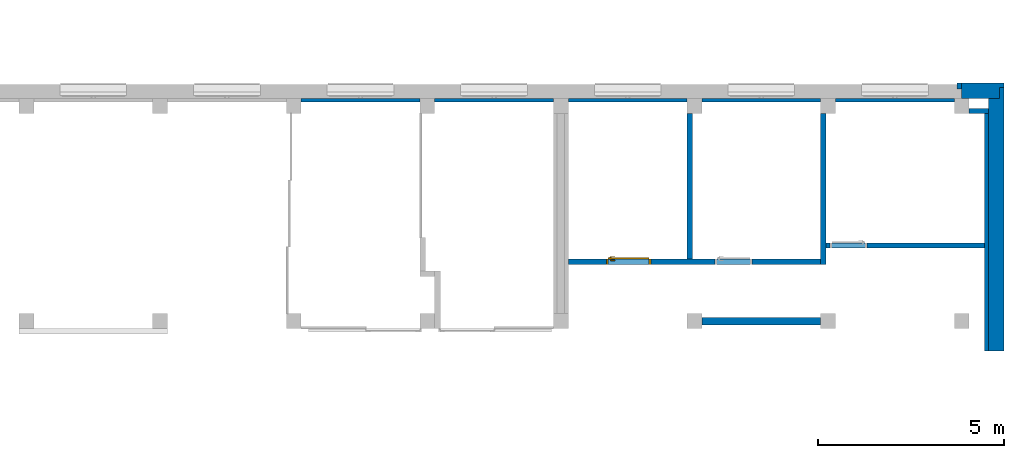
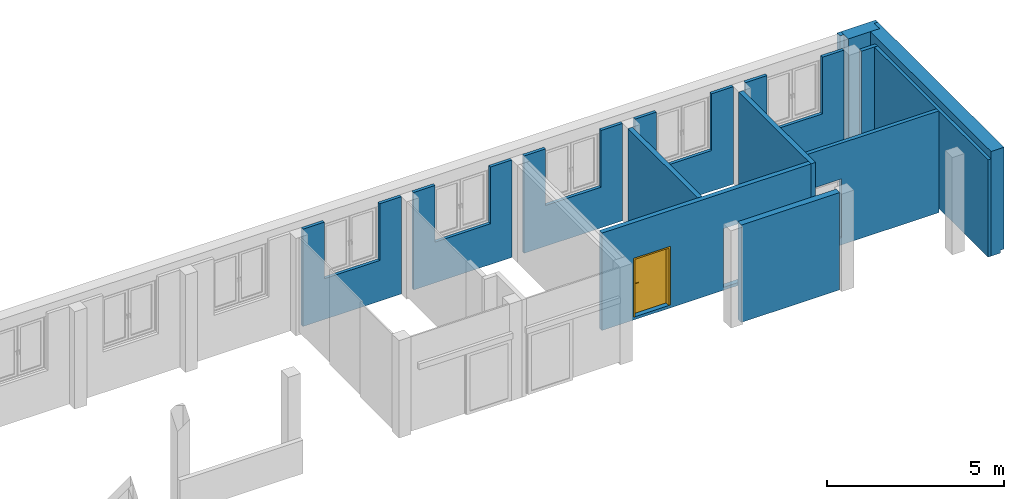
# One storey, part 25 of 37: 15 walls, 1 door, 8 openings.
"""IFC4 building model written with IfcOpenShell, lengths in metres."""

from ifc_helpers import new_model, entity, si_unit, converted_unit, derived_unit, frame, frame_2d, origin, origin_with_axes, place, context, subcontext, project, spatial, polyline, rectangle, outline, extrude, clip, bounded_halfspace, closed_shell, open_shell, surface_model, source, transform, mapped, material, layer, layer_set, layer_usage, type_object, element, fill, save


model = new_model("IFC4")

# Units and contexts
model_context = context("Model", 3, precision=1e-05, world=origin())
body_context = subcontext(model_context, "Body", "Model", "MODEL_VIEW")
ifc_project = project(units=[si_unit("LENGTHUNIT", "METRE"), si_unit("AREAUNIT", "SQUARE_METRE"), si_unit("VOLUMEUNIT", "CUBIC_METRE"), si_unit("MASSUNIT", "GRAM", prefix="KILO"), converted_unit("PLANEANGLEUNIT", "DEGREE", entity("IfcPlaneAngleMeasure", 0.0174532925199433), si_unit("PLANEANGLEUNIT", "RADIAN"), dimensions=[0, 0, 0, 0, 0, 0, 0]), derived_unit("THERMALTRANSMITTANCEUNIT", [(si_unit("POWERUNIT", "WATT"), 1), (si_unit("THERMODYNAMICTEMPERATUREUNIT", "KELVIN"), -1), (si_unit("LENGTHUNIT", "METRE"), -2)]), derived_unit("VOLUMETRICFLOWRATEUNIT", [(si_unit("LENGTHUNIT", "METRE"), 3), (converted_unit("TIMEUNIT", "hour", entity("IfcTimeMeasure", 3600.0), si_unit("TIMEUNIT", "SECOND"), dimensions=[0, 0, 1, 0, 0, 0, 0]), -1), (si_unit("LENGTHUNIT", "METRE"), -1)])], contexts=[model_context])

# Site, building, storey
site_placement = place(None, origin())
site = spatial("IfcSite", under=ifc_project, at=site_placement, Name="3. ASŘ", CompositionType="ELEMENT")
building_placement = place(site_placement, origin())
building = spatial("IfcBuilding", under=site, at=building_placement, Name="Pavilon B", CompositionType="ELEMENT")
storey_placement = place(building_placement, origin())
storey = spatial("IfcBuildingStorey", under=building, at=storey_placement, Name="Půdorys 1.NP", CompositionType="ELEMENT", Elevation=0.0)

# Walls
ifc_material_1 = material(Name="ZELEZOBETONOVÁ KCE")
ifc_layer_1 = layer(ifc_material_1, 0.2)
ifc_layer_set_1 = layer_set([ifc_layer_1])
ifc_layer_usage_1 = layer_usage(ifc_layer_set_1, "AXIS2", "POSITIVE", -0.1)
wall_1_placement = place(storey_placement, frame((78.1, -21.7, -0.1)))
element("IfcWall", 1, at=wall_1_placement, inside=storey, material=ifc_layer_usage_1, Name="ZELEZOBETONOVÁ KCE", context=body_context, shape_type="SweptSolid", body=[
    extrude(rectangle(XDim=3.2, YDim=0.2, at=frame_2d((1.6, 0.1), x_axis=(1.0, 0.0))), origin_with_axes(), (0.0, 0.0, 1.0), 3.35),
])
ifc_material_2 = material(Name="ZDIVO Z CDm")
ifc_layer_2 = layer(ifc_material_2, 0.125)
ifc_layer_set_2 = layer_set([ifc_layer_2])
ifc_layer_usage_2 = layer_usage(ifc_layer_set_2, "AXIS2", "POSITIVE", 0.0)
wall_2_placement = place(storey_placement, frame((85.3, -16.0, -0.1)))
element("IfcWall", 2, at=wall_2_placement, inside=storey, material=ifc_layer_usage_2, Name="ZDIVO Z CDm", context=body_context, shape_type="SweptSolid", body=[
    extrude(rectangle(XDim=0.52, YDim=0.125, at=frame_2d((0.26, 0.0625), x_axis=(1.0, 0.0))), origin_with_axes(), (0.0, 0.0, 1.0), 3.35),
])
ifc_material_3 = material(Name="ZELEZOBETONOVÁ KCE")
ifc_layer_3 = layer(ifc_material_3, 0.3)
ifc_material_4 = material(Name="MINERÁLNÍ VATA")
ifc_layer_4 = layer(ifc_material_4, 0.12)
ifc_layer_set_3 = layer_set([ifc_layer_3, ifc_layer_4])
ifc_layer_usage_3 = layer_usage(ifc_layer_set_3, "AXIS2", "POSITIVE", 0.0)
wall_3_placement = place(storey_placement, frame((85.1, -15.6, -0.1)))
element("IfcWall", 3, at=wall_3_placement, inside=storey, material=ifc_layer_usage_3, Name="ZELEZOBETONOVÁ KCE", context=body_context, shape_type="Clipping", body=[
    clip(extrude(outline(polyline([(0.0, 0.0), (1.02, 0.0), (1.02, 0.3), (1.14, 0.3), (1.14, 0.42), (0.0, 0.42), (0.0, 0.0)])), origin_with_axes(), (0.0, 0.0, 1.0), 3.6), bounded_halfspace(frame((0.66, 0.348, 0.1), z_axis=(0.0, 0.0, 1.0), x_axis=(0.0, -1.0, 0.0)), True, origin_with_axes(), polyline([(0.0, 0.42), (0.0, 0.299999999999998), (1.02, 0.299999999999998), (1.14, 0.3), (1.14, 0.42), (0.0, 0.42)]))),
])
ifc_material_5 = material(Name="MINERÁLNÍ VATA")
ifc_layer_5 = layer(ifc_material_5, 0.12)
ifc_layer_set_4 = layer_set([ifc_layer_5])
ifc_layer_usage_4 = layer_usage(ifc_layer_set_4, "AXIS2", "POSITIVE", 0.0)
wall_4_placement = place(storey_placement, frame((85.1, -15.35, 0.0), z_axis=(0.0, 0.0, 1.0), x_axis=(0.0, 1.0, 0.0)))
element("IfcWall", 4, at=wall_4_placement, inside=storey, material=ifc_layer_usage_4, Name="ZELEZOBETONOVÁ KCE", context=body_context, shape_type="SweptSolid", body=[
    extrude(rectangle(XDim=0.17, YDim=0.12, at=frame_2d((0.085, 0.06), x_axis=(1.0, 0.0))), origin_with_axes(), (0.0, 0.0, 1.0), 3.5),
])

# Wall, opening
ifc_material_6 = material(Name="PÓROBETONOVÉ ZDIVO")
ifc_layer_6 = layer(ifc_material_6, 0.1)
ifc_layer_set_5 = layer_set([ifc_layer_6])
ifc_layer_usage_5 = layer_usage(ifc_layer_set_5, "AXIS2", "POSITIVE", 0.0)
wall_5_placement = place(storey_placement, frame((84.9, -15.6, -0.1), z_axis=(0.0, 0.0, 1.0), x_axis=(-1.0, 0.0, 0.0)))
wall_5 = element("IfcWall", 5, at=wall_5_placement, inside=storey, material=ifc_layer_usage_5, Name="PÓROBETONOVÉ ZDIVO", context=body_context, shape_type="SweptSolid", body=[
    extrude(rectangle(XDim=3.2, YDim=0.1, at=frame_2d((1.6, 0.05), x_axis=(1.0, 0.0))), origin_with_axes(), (0.0, 0.0, 1.0), 3.35),
])
opening_1_placement = place(wall_5_placement, frame((2.5, 0.1, 1.4), z_axis=(0.0, -1.0, 0.0), x_axis=(0.0, 0.0, 1.0)))
element("IfcOpeningElement", 6, at=opening_1_placement, cuts=wall_5, Name="Okenní otvor", ObjectType="Opening", context=body_context, shape_type="SweptSolid", body=[
    extrude(outline(polyline([(0.0, 1.8), (1.95, 1.8), (1.95, 0.0), (0.0, 0.0), (0.0, 1.8)])), origin_with_axes(), (0.0, 0.0, 1.0), 0.1),
])

ifc_material_7 = material(Name="PÓROBETONOVÉ ZDIVO")
ifc_layer_7 = layer(ifc_material_7, 0.1)
ifc_layer_set_6 = layer_set([ifc_layer_7])
ifc_layer_usage_6 = layer_usage(ifc_layer_set_6, "AXIS2", "POSITIVE", 0.0)
wall_6_placement = place(storey_placement, frame((70.5, -15.6, -0.1), z_axis=(0.0, 0.0, 1.0), x_axis=(-1.0, 0.0, 0.0)))
wall_6 = element("IfcWall", 7, at=wall_6_placement, inside=storey, material=ifc_layer_usage_6, Name="PÓROBETONOVÉ ZDIVO", context=body_context, shape_type="SweptSolid", body=[
    extrude(rectangle(XDim=3.2, YDim=0.1, at=frame_2d((1.6, 0.05), x_axis=(1.0, 0.0))), origin_with_axes(), (0.0, 0.0, 1.0), 3.35),
])
opening_2_placement = place(wall_6_placement, frame((2.5, 0.1, 1.4), z_axis=(0.0, -1.0, 0.0), x_axis=(0.0, 0.0, 1.0)))
element("IfcOpeningElement", 8, at=opening_2_placement, cuts=wall_6, Name="Okenní otvor", ObjectType="Opening", context=body_context, shape_type="SweptSolid", body=[
    extrude(outline(polyline([(0.0, 1.8), (1.95, 1.8), (1.95, 0.0), (0.0, 0.0), (0.0, 1.8)])), origin_with_axes(), (0.0, 0.0, 1.0), 0.1),
])

ifc_material_8 = material(Name="PÓROBETONOVÉ ZDIVO")
ifc_layer_8 = layer(ifc_material_8, 0.1)
ifc_layer_set_7 = layer_set([ifc_layer_8])
ifc_layer_usage_7 = layer_usage(ifc_layer_set_7, "AXIS2", "POSITIVE", 0.0)
wall_7_placement = place(storey_placement, frame((77.7, -15.6, -0.1), z_axis=(0.0, 0.0, 1.0), x_axis=(-1.0, 0.0, 0.0)))
wall_7 = element("IfcWall", 9, at=wall_7_placement, inside=storey, material=ifc_layer_usage_7, Name="PÓROBETONOVÉ ZDIVO", context=body_context, shape_type="SweptSolid", body=[
    extrude(rectangle(XDim=3.2, YDim=0.1, at=frame_2d((1.6, 0.05), x_axis=(1.0, 0.0))), origin_with_axes(), (0.0, 0.0, 1.0), 3.35),
])
opening_3_placement = place(wall_7_placement, frame((2.5, 0.1, 1.4), z_axis=(0.0, -1.0, 0.0), x_axis=(0.0, 0.0, 1.0)))
element("IfcOpeningElement", 10, at=opening_3_placement, cuts=wall_7, Name="Okenní otvor", ObjectType="Opening", context=body_context, shape_type="SweptSolid", body=[
    extrude(outline(polyline([(0.0, 1.8), (1.95, 1.8), (1.95, 0.0), (0.0, 0.0), (0.0, 1.8)])), origin_with_axes(), (0.0, 0.0, 1.0), 0.1),
])

ifc_material_9 = material(Name="PÓROBETONOVÉ ZDIVO")
ifc_layer_9 = layer(ifc_material_9, 0.1)
ifc_layer_set_8 = layer_set([ifc_layer_9])
ifc_layer_usage_8 = layer_usage(ifc_layer_set_8, "AXIS2", "POSITIVE", 0.0)
wall_8_placement = place(storey_placement, frame((81.3, -15.6, -0.1), z_axis=(0.0, 0.0, 1.0), x_axis=(-1.0, 0.0, 0.0)))
wall_8 = element("IfcWall", 11, at=wall_8_placement, inside=storey, material=ifc_layer_usage_8, Name="PÓROBETONOVÉ ZDIVO", context=body_context, shape_type="SweptSolid", body=[
    extrude(rectangle(XDim=3.2, YDim=0.1, at=frame_2d((1.6, 0.05), x_axis=(1.0, 0.0))), origin_with_axes(), (0.0, 0.0, 1.0), 3.35),
])
opening_4_placement = place(wall_8_placement, frame((2.5, 0.1, 1.4), z_axis=(0.0, -1.0, 0.0), x_axis=(0.0, 0.0, 1.0)))
element("IfcOpeningElement", 12, at=opening_4_placement, cuts=wall_8, Name="Okenní otvor", ObjectType="Opening", context=body_context, shape_type="SweptSolid", body=[
    extrude(outline(polyline([(0.0, 1.8), (1.95, 1.8), (1.95, 0.0), (0.0, 0.0), (0.0, 1.8)])), origin_with_axes(), (0.0, 0.0, 1.0), 0.1),
])

ifc_material_10 = material(Name="PÓROBETONOVÉ ZDIVO")
ifc_layer_10 = layer(ifc_material_10, 0.1)
ifc_layer_set_9 = layer_set([ifc_layer_10])
ifc_layer_usage_9 = layer_usage(ifc_layer_set_9, "AXIS2", "POSITIVE", 0.0)
wall_9_placement = place(storey_placement, frame((74.1, -15.6, -0.1), z_axis=(0.0, 0.0, 1.0), x_axis=(-1.0, 0.0, 0.0)))
wall_9 = element("IfcWall", 13, at=wall_9_placement, inside=storey, material=ifc_layer_usage_9, Name="PÓROBETONOVÉ ZDIVO", context=body_context, shape_type="SweptSolid", body=[
    extrude(rectangle(XDim=3.2, YDim=0.1, at=frame_2d((1.6, 0.05), x_axis=(1.0, 0.0))), origin_with_axes(), (0.0, 0.0, 1.0), 3.35),
])
opening_5_placement = place(wall_9_placement, frame((2.5, 0.1, 1.4), z_axis=(0.0, -1.0, 0.0), x_axis=(0.0, 0.0, 1.0)))
element("IfcOpeningElement", 14, at=opening_5_placement, cuts=wall_9, Name="Okenní otvor", ObjectType="Opening", context=body_context, shape_type="SweptSolid", body=[
    extrude(outline(polyline([(0.0, 1.8), (1.95, 1.8), (1.95, 0.0), (0.0, 0.0), (0.0, 1.8)])), origin_with_axes(), (0.0, 0.0, 1.0), 0.1),
])

# Wall, openings, door
ifc_material_11 = material(Name="YTONG 150")
ifc_layer_11 = layer(ifc_material_11, 0.15)
ifc_layer_set_10 = layer_set([ifc_layer_11])
ifc_layer_usage_10 = layer_usage(ifc_layer_set_10, "AXIS2", "POSITIVE", 0.0)
wall_10_placement = place(storey_placement, frame((81.3, -19.93, -0.1), z_axis=(0.0, 0.0, 1.0), x_axis=(-1.0, 0.0, 0.0)))
wall_10 = element("IfcWall", 15, at=wall_10_placement, inside=storey, material=ifc_layer_usage_10, Name="YTONG 150", context=body_context, shape_type="SweptSolid", body=[
    extrude(rectangle(XDim=6.8, YDim=0.15, at=frame_2d((3.4, 0.075), x_axis=(1.0, 0.0))), origin_with_axes(), (0.0, 0.0, 1.0), 3.35),
])
opening_6_placement = place(wall_10_placement, frame((4.575, 0.0, 0.1), z_axis=(0.0, 1.0, 0.0), x_axis=(0.0, 0.0, 1.0)))
opening_6 = element("IfcOpeningElement", 16, at=opening_6_placement, cuts=wall_10, Name="Dveřní otvor", ObjectType="Opening", context=body_context, shape_type="SweptSolid", body=[
    extrude(outline(polyline([(0.0, 1.2), (2.02, 1.2), (2.02, 0.0), (0.0, 0.0), (0.0, 1.2)])), origin_with_axes(), (0.0, 0.0, 1.0), 0.15),
])
opening_7_placement = place(wall_10_placement, frame((1.85, 0.0, 0.1), z_axis=(0.0, 1.0, 0.0), x_axis=(0.0, 0.0, 1.0)))
element("IfcOpeningElement", 17, at=opening_7_placement, cuts=wall_10, Name="Dveřní otvor", ObjectType="Opening", context=body_context, shape_type="SweptSolid", body=[
    extrude(outline(polyline([(0.0, 1.0), (2.02, 1.0), (2.02, 0.0), (0.0, 0.0), (0.0, 1.0)])), origin_with_axes(), (0.0, 0.0, 1.0), 0.15),
])
door_type = type_object("IfcDoorType", Name="D101", OperationType="NOTDEFINED", ParameterTakesPrecedence=False, PredefinedType="DOOR")
shared_shape = source(origin_with_axes(), body_context, "Body", "SurfaceModel", [
    surface_model("IfcShellBasedSurfaceModel", [(0.0, 0.15, 2.02), (0.0, 0.15, -9.18485099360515e-18), (0.05, 0.15, -9.18485099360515e-18), (0.05, 0.15, 2.02), (0.0, 0.0, 9.18485099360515e-18), (0.0, 2.55795384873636e-16, 2.02), (0.05, 2.55795384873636e-16, 2.02), (0.05, 0.0, 9.18485099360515e-18)], [closed_shell([[[0, 1, 2, 3]], [[4, 5, 6, 7]], [[1, 0, 5, 4]], [[2, 1, 4, 7]], [[3, 2, 7, 6]], [[0, 3, 6, 5]]], orient=[[False], [False], [False], [False], [False], [False]])]),
    surface_model("IfcShellBasedSurfaceModel", [(1.15, 0.15, 2.02), (1.15, 0.15, -9.18485099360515e-18), (1.2, 0.15, -9.18485099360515e-18), (1.2, 0.15, 2.02), (1.15, 0.0, 9.18485099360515e-18), (1.15, 2.55795384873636e-16, 2.02), (1.2, 2.55795384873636e-16, 2.02), (1.2, 0.0, 9.18485099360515e-18)], [closed_shell([[[0, 1, 2, 3]], [[4, 5, 6, 7]], [[1, 0, 5, 4]], [[2, 1, 4, 7]], [[3, 2, 7, 6]], [[0, 3, 6, 5]]], orient=[[False], [False], [False], [False], [False], [False]])]),
    surface_model("IfcShellBasedSurfaceModel", [(0.05, 0.15, 2.02), (0.05, 0.15, 1.97), (1.15, 0.15, 1.97), (1.15, 0.15, 2.02), (0.05, 2.27373675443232e-16, 1.97), (0.05, 2.27373675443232e-16, 2.02), (1.15, 2.27373675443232e-16, 2.02), (1.15, 2.27373675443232e-16, 1.97)], [closed_shell([[[0, 1, 2, 3]], [[4, 5, 6, 7]], [[1, 0, 5, 4]], [[2, 1, 4, 7]], [[3, 2, 7, 6]], [[0, 3, 6, 5]]], orient=[[False], [False], [False], [False], [False], [False]])]),
    surface_model("IfcShellBasedSurfaceModel", [(0.05, 0.19, 1.97), (0.05, 0.19, -1.40834381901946e-17), (1.15, 0.19, -1.40834381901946e-17), (1.15, 0.19, 1.97), (0.05, 0.15, -9.18485099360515e-18), (0.05, 0.15, 1.97), (1.15, 0.15, 1.97), (1.15, 0.15, -9.18485099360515e-18)], [closed_shell([[[0, 1, 2, 3]], [[4, 5, 6, 7]], [[1, 0, 5, 4]], [[2, 1, 4, 7]], [[3, 2, 7, 6]], [[0, 3, 6, 5]]], orient=[[False], [False], [False], [False], [False], [False]])]),
    surface_model("IfcShellBasedSurfaceModel", [(1.10881569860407, 0.15, 0.93625), (1.1125, 0.15, 0.95), (1.10881569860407, 0.15, 0.96375), (1.09875, 0.15, 0.973815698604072), (1.085, 0.15, 0.9775), (1.07125, 0.15, 0.973815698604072), (1.06118430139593, 0.15, 0.96375), (1.0575, 0.15, 0.95), (1.06118430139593, 0.15, 0.93625), (1.07125, 0.15, 0.926184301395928), (1.085, 0.15, 0.9225), (1.09875, 0.15, 0.926184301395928), (1.1125, 0.1375, 0.95), (1.10881569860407, 0.1375, 0.93625), (1.09875, 0.1375, 0.926184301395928), (1.085, 0.1375, 0.9225), (1.07125, 0.1375, 0.926184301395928), (1.06118430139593, 0.1375, 0.93625), (1.0575, 0.1375, 0.95), (1.06118430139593, 0.1375, 0.96375), (1.07125, 0.1375, 0.973815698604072), (1.085, 0.1375, 0.9775), (1.09875, 0.1375, 0.973815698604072), (1.10881569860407, 0.1375, 0.96375)], [closed_shell([[[0, 1, 2, 3, 4, 5, 6, 7, 8, 9, 10, 11]], [[12, 13, 14, 15, 16, 17, 18, 19, 20, 21, 22, 23]], [[1, 0, 13, 12]], [[2, 1, 12, 23]], [[3, 2, 23, 22]], [[4, 3, 22, 21]], [[5, 4, 21, 20]], [[6, 5, 20, 19]], [[7, 6, 19, 18]], [[8, 7, 18, 17]], [[9, 8, 17, 16]], [[10, 9, 16, 15]], [[11, 10, 15, 14]], [[0, 11, 14, 13]]], orient=[[False], [False], [False], [False], [False], [False], [False], [False], [False], [False], [False], [False], [False], [False]])]),
    surface_model("IfcShellBasedSurfaceModel", [(1.10881569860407, 0.15, 1.03625), (1.1125, 0.15, 1.05), (1.10881569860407, 0.15, 1.06375), (1.09875, 0.15, 1.07381569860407), (1.085, 0.15, 1.0775), (1.07125, 0.15, 1.07381569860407), (1.06118430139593, 0.15, 1.06375), (1.0575, 0.15, 1.05), (1.06118430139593, 0.15, 1.03625), (1.07125, 0.15, 1.02618430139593), (1.085, 0.15, 1.0225), (1.09875, 0.15, 1.02618430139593), (1.1125, 0.1375, 1.05), (1.10881569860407, 0.1375, 1.03625), (1.09875, 0.1375, 1.02618430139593), (1.085, 0.1375, 1.0225), (1.07125, 0.1375, 1.02618430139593), (1.06118430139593, 0.1375, 1.03625), (1.0575, 0.1375, 1.05), (1.06118430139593, 0.1375, 1.06375), (1.07125, 0.1375, 1.07381569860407), (1.085, 0.1375, 1.0775), (1.09875, 0.1375, 1.07381569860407), (1.10881569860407, 0.1375, 1.06375)], [closed_shell([[[0, 1, 2, 3, 4, 5, 6, 7, 8, 9, 10, 11]], [[12, 13, 14, 15, 16, 17, 18, 19, 20, 21, 22, 23]], [[1, 0, 13, 12]], [[2, 1, 12, 23]], [[3, 2, 23, 22]], [[4, 3, 22, 21]], [[5, 4, 21, 20]], [[6, 5, 20, 19]], [[7, 6, 19, 18]], [[8, 7, 18, 17]], [[9, 8, 17, 16]], [[10, 9, 16, 15]], [[11, 10, 15, 14]], [[0, 11, 14, 13]]], orient=[[False], [False], [False], [False], [False], [False], [False], [False], [False], [False], [False], [False], [False], [False]])]),
    surface_model("IfcShellBasedSurfaceModel", [(1.085, 0.15, 1.06), (1.08, 0.15, 1.05866025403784), (1.07633974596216, 0.15, 1.055), (1.075, 0.15, 1.05), (1.07633974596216, 0.15, 1.045), (1.08, 0.15, 1.04133974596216), (1.085, 0.15, 1.04), (1.09, 0.15, 1.04133974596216), (1.09366025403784, 0.15, 1.045), (1.095, 0.15, 1.05), (1.09366025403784, 0.15, 1.055), (1.09, 0.15, 1.05866025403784), (1.09, 0.105, 1.05866025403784), (1.085, 0.11, 1.06), (1.09366025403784, 0.101339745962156, 1.055), (1.095, 0.1, 1.05), (1.09366025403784, 0.101339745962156, 1.045), (1.09, 0.105, 1.04133974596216), (1.085, 0.11, 1.04), (1.08, 0.115, 1.04133974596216), (1.07633974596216, 0.118660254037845, 1.045), (1.075, 0.12, 1.05), (1.07633974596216, 0.118660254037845, 1.055), (1.08, 0.115, 1.05866025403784), (0.97, 0.105, 1.05866025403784), (0.97, 0.11, 1.06), (0.97, 0.101339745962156, 1.055), (0.97, 0.1, 1.05), (0.97, 0.101339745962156, 1.045), (0.97, 0.105, 1.04133974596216), (0.97, 0.11, 1.04), (0.97, 0.115, 1.04133974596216), (0.97, 0.118660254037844, 1.045), (0.97, 0.12, 1.05), (0.97, 0.118660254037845, 1.055), (0.97, 0.115, 1.05866025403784)], [open_shell([[[0, 1, 2, 3, 4, 5, 6, 7, 8, 9, 10, 11]], [[0, 11, 12, 13]], [[11, 10, 14, 12]], [[10, 9, 15, 14]], [[9, 8, 16, 15]], [[8, 7, 17, 16]], [[7, 6, 18, 17]], [[6, 5, 19, 18]], [[5, 4, 20, 19]], [[4, 3, 21, 20]], [[3, 2, 22, 21]], [[2, 1, 23, 22]], [[1, 0, 13, 23]], [[13, 12, 24, 25]], [[12, 14, 26, 24]], [[14, 15, 27, 26]], [[15, 16, 28, 27]], [[16, 17, 29, 28]], [[17, 18, 30, 29]], [[18, 19, 31, 30]], [[19, 20, 32, 31]], [[20, 21, 33, 32]], [[21, 22, 34, 33]], [[22, 23, 35, 34]], [[23, 13, 25, 35]]], orient=[[False], [False], [False], [False], [False], [False], [False], [False], [False], [False], [False], [False], [False], [False], [False], [False], [False], [False], [False], [False], [False], [False], [False], [False], [False]])]),
    surface_model("IfcShellBasedSurfaceModel", [(1.10881569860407, 0.19, 0.93625), (1.09875, 0.19, 0.926184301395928), (1.085, 0.19, 0.9225), (1.07125, 0.19, 0.926184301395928), (1.06118430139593, 0.19, 0.93625), (1.0575, 0.19, 0.95), (1.06118430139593, 0.19, 0.96375), (1.07125, 0.19, 0.973815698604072), (1.085, 0.19, 0.9775), (1.09875, 0.19, 0.973815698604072), (1.10881569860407, 0.19, 0.96375), (1.1125, 0.19, 0.95), (1.1125, 0.2025, 0.95), (1.10881569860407, 0.2025, 0.96375), (1.09875, 0.2025, 0.973815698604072), (1.085, 0.2025, 0.9775), (1.07125, 0.2025, 0.973815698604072), (1.06118430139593, 0.2025, 0.96375), (1.0575, 0.2025, 0.95), (1.06118430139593, 0.2025, 0.93625), (1.07125, 0.2025, 0.926184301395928), (1.085, 0.2025, 0.9225), (1.09875, 0.2025, 0.926184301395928), (1.10881569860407, 0.2025, 0.93625)], [closed_shell([[[0, 1, 2, 3, 4, 5, 6, 7, 8, 9, 10, 11]], [[12, 13, 14, 15, 16, 17, 18, 19, 20, 21, 22, 23]], [[11, 12, 23, 0]], [[10, 13, 12, 11]], [[9, 14, 13, 10]], [[8, 15, 14, 9]], [[7, 16, 15, 8]], [[6, 17, 16, 7]], [[5, 18, 17, 6]], [[4, 19, 18, 5]], [[3, 20, 19, 4]], [[2, 21, 20, 3]], [[1, 22, 21, 2]], [[0, 23, 22, 1]]], orient=[[False], [False], [False], [False], [False], [False], [False], [False], [False], [False], [False], [False], [False], [False]])]),
    surface_model("IfcShellBasedSurfaceModel", [(1.10881569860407, 0.19, 1.03625), (1.09875, 0.19, 1.02618430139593), (1.085, 0.19, 1.0225), (1.07125, 0.19, 1.02618430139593), (1.06118430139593, 0.19, 1.03625), (1.0575, 0.19, 1.05), (1.06118430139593, 0.19, 1.06375), (1.07125, 0.19, 1.07381569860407), (1.085, 0.19, 1.0775), (1.09875, 0.19, 1.07381569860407), (1.10881569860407, 0.19, 1.06375), (1.1125, 0.19, 1.05), (1.1125, 0.2025, 1.05), (1.10881569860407, 0.2025, 1.06375), (1.09875, 0.2025, 1.07381569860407), (1.085, 0.2025, 1.0775), (1.07125, 0.2025, 1.07381569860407), (1.06118430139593, 0.2025, 1.06375), (1.0575, 0.2025, 1.05), (1.06118430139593, 0.2025, 1.03625), (1.07125, 0.2025, 1.02618430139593), (1.085, 0.2025, 1.0225), (1.09875, 0.2025, 1.02618430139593), (1.10881569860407, 0.2025, 1.03625)], [closed_shell([[[0, 1, 2, 3, 4, 5, 6, 7, 8, 9, 10, 11]], [[12, 13, 14, 15, 16, 17, 18, 19, 20, 21, 22, 23]], [[11, 12, 23, 0]], [[10, 13, 12, 11]], [[9, 14, 13, 10]], [[8, 15, 14, 9]], [[7, 16, 15, 8]], [[6, 17, 16, 7]], [[5, 18, 17, 6]], [[4, 19, 18, 5]], [[3, 20, 19, 4]], [[2, 21, 20, 3]], [[1, 22, 21, 2]], [[0, 23, 22, 1]]], orient=[[False], [False], [False], [False], [False], [False], [False], [False], [False], [False], [False], [False], [False], [False]])]),
    surface_model("IfcShellBasedSurfaceModel", [(1.085, 0.19, 1.06), (1.09, 0.19, 1.05866025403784), (1.09366025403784, 0.19, 1.055), (1.095, 0.19, 1.05), (1.09366025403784, 0.19, 1.045), (1.09, 0.19, 1.04133974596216), (1.085, 0.19, 1.04), (1.08, 0.19, 1.04133974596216), (1.07633974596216, 0.19, 1.045), (1.075, 0.19, 1.05), (1.07633974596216, 0.19, 1.055), (1.08, 0.19, 1.05866025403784), (1.085, 0.23, 1.06), (1.09, 0.235, 1.05866025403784), (1.09366025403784, 0.238660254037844, 1.055), (1.095, 0.24, 1.05), (1.09366025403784, 0.238660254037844, 1.045), (1.09, 0.235, 1.04133974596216), (1.085, 0.23, 1.04), (1.08, 0.225, 1.04133974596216), (1.07633974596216, 0.221339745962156, 1.045), (1.075, 0.22, 1.05), (1.07633974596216, 0.221339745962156, 1.055), (1.08, 0.225, 1.05866025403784), (0.97, 0.23, 1.06), (0.97, 0.235, 1.05866025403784), (0.97, 0.238660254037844, 1.055), (0.97, 0.24, 1.05), (0.97, 0.238660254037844, 1.045), (0.97, 0.235, 1.04133974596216), (0.97, 0.23, 1.04), (0.97, 0.225, 1.04133974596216), (0.97, 0.221339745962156, 1.045), (0.97, 0.22, 1.05), (0.97, 0.221339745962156, 1.055), (0.97, 0.225, 1.05866025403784)], [open_shell([[[0, 1, 2, 3, 4, 5, 6, 7, 8, 9, 10, 11]], [[0, 12, 13, 1]], [[1, 13, 14, 2]], [[2, 14, 15, 3]], [[3, 15, 16, 4]], [[4, 16, 17, 5]], [[5, 17, 18, 6]], [[6, 18, 19, 7]], [[7, 19, 20, 8]], [[8, 20, 21, 9]], [[9, 21, 22, 10]], [[10, 22, 23, 11]], [[11, 23, 12, 0]], [[12, 24, 25, 13]], [[13, 25, 26, 14]], [[14, 26, 27, 15]], [[15, 27, 28, 16]], [[16, 28, 29, 17]], [[17, 29, 30, 18]], [[18, 30, 31, 19]], [[19, 31, 32, 20]], [[20, 32, 33, 21]], [[21, 33, 34, 22]], [[22, 34, 35, 23]], [[23, 35, 24, 12]]], orient=[[False], [False], [False], [False], [False], [False], [False], [False], [False], [False], [False], [False], [False], [False], [False], [False], [False], [False], [False], [False], [False], [False], [False], [False], [False]])]),
])
door_placement = place(opening_6_placement, frame((0.0, 0.0, 0.15), z_axis=(1.0, 0.0, 0.0), x_axis=(0.0, 1.0, -2.44929359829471e-16)))
door = element("IfcDoor", 18, at=door_placement, inside=storey, type_object=door_type, Name="D101", OverallHeight=2.02, OverallWidth=1.2, context=body_context, shape_type="MappedRepresentation", body=[
    mapped(shared_shape, transform((0.0, 0.0, 0.0), x_axis=(1.0, 0.0, 0.0), y_axis=(0.0, -1.0, 0.0), z_axis=(0.0, 0.0, 1.0), scale=1.0)),
])
fill(opening_6, door)

# Walls
ifc_material_12 = material(Name="ZELEZOBETONOVÁ KCE")
ifc_layer_12 = layer(ifc_material_12, 0.3)
ifc_material_13 = material(Name="MINERÁLNÍ VATA")
ifc_layer_13 = layer(ifc_material_13, 0.12)
ifc_layer_set_11 = layer_set([ifc_layer_12, ifc_layer_13])
ifc_layer_usage_11 = layer_usage(ifc_layer_set_11, "AXIS2", "POSITIVE", 0.0)
wall_11_placement = place(storey_placement, frame((85.82, -15.6, -0.1), z_axis=(0.0, 0.0, 1.0), x_axis=(0.0, -1.0, 0.0)))
element("IfcWall", 19, at=wall_11_placement, inside=storey, material=ifc_layer_usage_11, Name="ZELEZOBETONOVÁ KCE", context=body_context, shape_type="Clipping", body=[
    clip(extrude(outline(polyline([(-7.1, 0.42), (-7.1, 0.3), (-6.8, 0.3), (-6.8, 0.0), (0.0, 0.0), (0.0, 0.42), (-7.1, 0.42)])), frame((6.8, 0.0, 0.0), z_axis=(0.0, 0.0, 1.0), x_axis=(1.0, 0.0, 0.0)), (0.0, 0.0, 1.0), 3.6), bounded_halfspace(frame((2.6, 0.348, 0.1), z_axis=(0.0, 0.0, 1.0), x_axis=(0.0, -1.0, 0.0)), True, origin_with_axes(), polyline([(-0.3, 0.42), (-0.3, 0.3), (-3.63797880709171e-15, 0.3), (6.79999999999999, 0.3), (6.8, 0.42), (-0.3, 0.42)]))),
])
ifc_material_14 = material(Name="YTONG 150")
ifc_layer_14 = layer(ifc_material_14, 0.15)
ifc_layer_set_12 = layer_set([ifc_layer_14])
ifc_layer_usage_12 = layer_usage(ifc_layer_set_12, "AXIS2", "POSITIVE", 0.0)
wall_12_placement = place(storey_placement, frame((77.7, -16.0, -0.1), z_axis=(0.0, 0.0, 1.0), x_axis=(0.0, -1.0, 0.0)))
element("IfcWall", 20, at=wall_12_placement, inside=storey, material=ifc_layer_usage_12, Name="YTONG 150", context=body_context, shape_type="SweptSolid", body=[
    extrude(rectangle(XDim=3.93, YDim=0.15, at=frame_2d((1.965, 0.075), x_axis=(1.0, 0.0))), origin_with_axes(), (0.0, 0.0, 1.0), 3.35),
])
ifc_material_15 = material(Name="YTONG 150")
ifc_layer_15 = layer(ifc_material_15, 0.15)
ifc_layer_set_13 = layer_set([ifc_layer_15])
ifc_layer_usage_13 = layer_usage(ifc_layer_set_13, "AXIS2", "POSITIVE", 0.0)
wall_13_placement = place(storey_placement, frame((81.3, -16.0, -0.1), z_axis=(0.0, 0.0, 1.0), x_axis=(0.0, -1.0, 0.0)))
element("IfcWall", 21, at=wall_13_placement, inside=storey, material=ifc_layer_usage_13, Name="YTONG 150", context=body_context, shape_type="SweptSolid", body=[
    extrude(rectangle(XDim=4.08, YDim=0.15, at=frame_2d((2.04, 0.075), x_axis=(1.0, 0.0))), origin_with_axes(), (0.0, 0.0, 1.0), 3.35),
])

# Wall, opening
ifc_material_16 = material(Name="YTONG 125")
ifc_layer_16 = layer(ifc_material_16, 0.125)
ifc_layer_set_14 = layer_set([ifc_layer_16])
ifc_layer_usage_14 = layer_usage(ifc_layer_set_14, "AXIS2", "POSITIVE", 0.0)
wall_14_placement = place(storey_placement, frame((85.72, -19.5, -0.25), z_axis=(0.0, 0.0, 1.0), x_axis=(-1.0, 0.0, 0.0)))
wall_14 = element("IfcWall", 22, at=wall_14_placement, inside=storey, material=ifc_layer_usage_14, Name="YTONG 125", context=body_context, shape_type="SweptSolid", body=[
    extrude(rectangle(XDim=4.27, YDim=0.125, at=frame_2d((2.135, 0.0625), x_axis=(1.0, 0.0))), origin_with_axes(), (0.0, 0.0, 1.0), 3.5),
])
opening_8_placement = place(wall_14_placement, frame((3.17, 0.0, 0.25), z_axis=(0.0, 1.0, 0.0), x_axis=(0.0, 0.0, 1.0)))
element("IfcOpeningElement", 23, at=opening_8_placement, cuts=wall_14, Name="Dveřní otvor", ObjectType="Opening", context=body_context, shape_type="SweptSolid", body=[
    extrude(outline(polyline([(0.0, 1.0), (2.02, 1.0), (2.02, 0.0), (0.0, 0.0), (0.0, 1.0)])), origin_with_axes(), (0.0, 0.0, 1.0), 0.125),
])

# Wall
ifc_material_17 = material(Name="PÓROBETONOVÉ ZDIVO")
ifc_layer_17 = layer(ifc_material_17, 0.1)
ifc_layer_set_15 = layer_set([ifc_layer_17])
ifc_layer_usage_15 = layer_usage(ifc_layer_set_15, "AXIS2", "POSITIVE", 0.0)
wall_15_placement = place(storey_placement, frame((85.82, -22.4, -0.1), z_axis=(0.0, 0.0, 1.0), x_axis=(0.0, 1.0, 0.0)))
element("IfcWall", 24, at=wall_15_placement, inside=storey, material=ifc_layer_usage_15, Name="PÓROBETONOVÉ ZDIVO", context=body_context, shape_type="SweptSolid", body=[
    extrude(rectangle(XDim=6.39999999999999, YDim=0.1, at=frame_2d((3.2, 0.05), x_axis=(1.0, 0.0))), origin_with_axes(), (0.0, 0.0, 1.0), 3.35),
])

save(model, "model.ifc")
